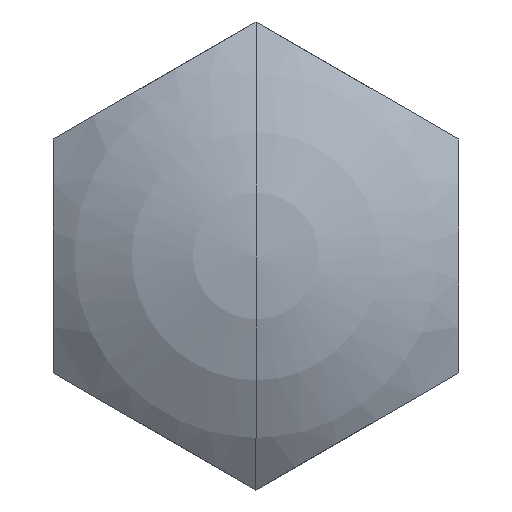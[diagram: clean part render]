
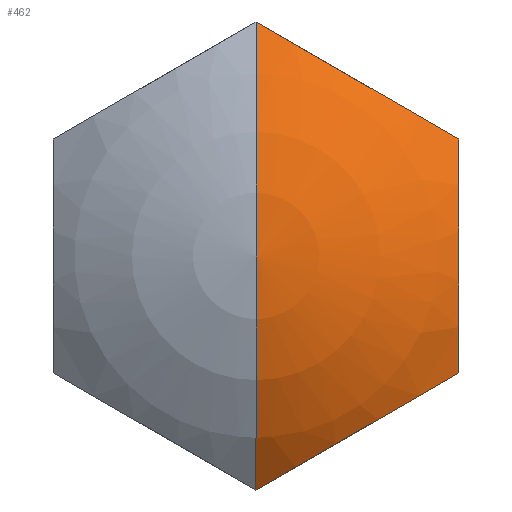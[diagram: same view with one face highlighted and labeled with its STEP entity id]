
A CAD part, left-side view. The second image highlights one B-rep face of the part: STEP entity #462.
In plain terms, the highlighted spherical face has radius 22 mm.
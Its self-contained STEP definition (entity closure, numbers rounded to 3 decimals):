
#123=CARTESIAN_POINT('',(-2.,-6.,10.392));
#124=DIRECTION('',(0.,-0.5,0.866));
#125=DIRECTION('',(-0.927,0.325,0.188));
#126=AXIS2_PLACEMENT_3D('',#123,#124,#125);
#128=CARTESIAN_POINT('',(-2.,-12.,0.));
#129=DIRECTION('',(0.,-1.,0.));
#130=DIRECTION('',(-0.927,0.,0.376));
#131=AXIS2_PLACEMENT_3D('',#128,#129,#130);
#133=CARTESIAN_POINT('',(-2.,-6.,-10.392));
#134=DIRECTION('',(0.,-0.5,-0.866));
#135=DIRECTION('',(-0.927,-0.325,0.188));
#136=AXIS2_PLACEMENT_3D('',#133,#134,#135);
#171=CARTESIAN_POINT('',(-2.,0.,0.));
#172=DIRECTION('',(0.,-1.,0.));
#173=DIRECTION('',(-0.777,0.,0.63));
#174=AXIS2_PLACEMENT_3D('',#171,#172,#173);
#176=CARTESIAN_POINT('',(-2.,0.,0.));
#177=DIRECTION('',(0.,-1.,0.));
#178=DIRECTION('',(-1.,0.,0.));
#179=AXIS2_PLACEMENT_3D('',#176,#177,#178);
#227=CARTESIAN_POINT('',(-19.088,0.,
13.856));
#228=VERTEX_POINT('',#227);
#231=CARTESIAN_POINT('',(-19.088,-12.,6.928));
#232=VERTEX_POINT('',#231);
#233=CARTESIAN_POINT('',(-19.088,-12.,-6.928));
#234=VERTEX_POINT('',#233);
#235=CARTESIAN_POINT('',(-19.088,0.,
-13.856));
#236=VERTEX_POINT('',#235);
#237=CARTESIAN_POINT('',(-24.,0.,0.));
#238=VERTEX_POINT('',#237);
#446=CARTESIAN_POINT('',(-2.,0.,0.));
#447=DIRECTION('',(-1.,0.,0.));
#448=DIRECTION('',(0.,0.,-1.));
#449=AXIS2_PLACEMENT_3D('',#446,#447,#448);
#450=SPHERICAL_SURFACE('',#449,22.);
#451=ORIENTED_EDGE('',*,*,#437,.T.);
#453=ORIENTED_EDGE('',*,*,#452,.T.);
#455=ORIENTED_EDGE('',*,*,#454,.T.);
#457=ORIENTED_EDGE('',*,*,#456,.F.);
#459=ORIENTED_EDGE('',*,*,#458,.F.);
#460=EDGE_LOOP('',(#451,#453,#455,#457,#459));
#461=FACE_OUTER_BOUND('',#460,.F.);
#462=ADVANCED_FACE('',(#461),#450,.T.);
#127=CIRCLE('',#126,18.439);
#132=CIRCLE('',#131,18.439);
#137=CIRCLE('',#136,18.439);
#175=CIRCLE('',#174,22.);
#180=CIRCLE('',#179,22.);
#437=EDGE_CURVE('',#228,#232,#127,.T.);
#452=EDGE_CURVE('',#232,#234,#132,.T.);
#454=EDGE_CURVE('',#234,#236,#137,.T.);
#456=EDGE_CURVE('',#238,#236,#180,.T.);
#458=EDGE_CURVE('',#228,#238,#175,.T.);
